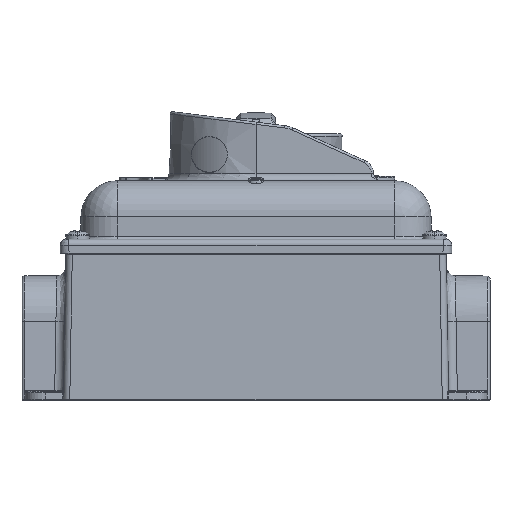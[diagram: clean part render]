
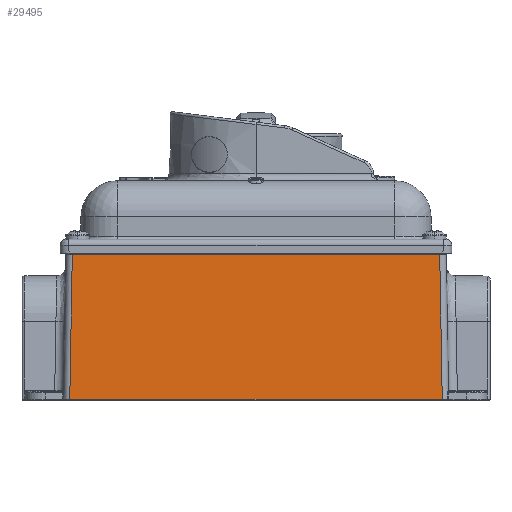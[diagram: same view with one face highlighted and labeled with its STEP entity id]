
A CAD part, left-side view. The second image highlights one B-rep face of the part: STEP entity #29495.
In plain terms, the highlighted planar face has unit normal (-1, 0, 0.018).
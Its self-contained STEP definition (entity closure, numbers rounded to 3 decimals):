
#7275=CARTESIAN_POINT('',(-50.867,-63.668,
-29.695));
#9638=CARTESIAN_POINT('',(-50.005,62.805,19.705));
#9640=DIRECTION('',(0.,1.,0.));
#9641=VECTOR('',#9640,127.336);
#9642=CARTESIAN_POINT('',(-50.867,-63.668,
-29.695));
#9643=LINE('',#9642,#9641);
#9644=DIRECTION('',(-0.017,0.017,-1.));
#9645=VECTOR('',#9644,49.415);
#9646=CARTESIAN_POINT('',(-50.005,62.805,19.705));
#9647=LINE('',#9646,#9645);
#9648=DIRECTION('',(0.,-1.,0.));
#9649=VECTOR('',#9648,125.611);
#9650=CARTESIAN_POINT('',(-50.005,62.805,19.705));
#9651=LINE('',#9650,#9649);
#9652=DIRECTION('',(-0.017,-0.017,-1.));
#9653=VECTOR('',#9652,49.415);
#9654=CARTESIAN_POINT('',(-50.005,-62.805,
19.705));
#9655=LINE('',#9654,#9653);
#15175=VERTEX_POINT('',#9638);
#15176=CARTESIAN_POINT('',(-50.005,-62.805,
19.705));
#15177=VERTEX_POINT('',#15176);
#15300=VERTEX_POINT('',#7275);
#15303=CARTESIAN_POINT('',(-50.867,63.668,
-29.695));
#15304=VERTEX_POINT('',#15303);
#29483=CARTESIAN_POINT('',(-50.,68.342,20.));
#29484=DIRECTION('',(-1.,0.,0.017));
#29485=DIRECTION('',(0.,-1.,0.));
#29486=AXIS2_PLACEMENT_3D('',#29483,#29484,#29485);
#29487=PLANE('',#29486);
#29489=ORIENTED_EDGE('',*,*,#29488,.T.);
#29490=ORIENTED_EDGE('',*,*,#29478,.F.);
#29491=ORIENTED_EDGE('',*,*,#25095,.T.);
#29492=ORIENTED_EDGE('',*,*,#25161,.T.);
#29493=EDGE_LOOP('',(#29489,#29490,#29491,#29492));
#29494=FACE_OUTER_BOUND('',#29493,.F.);
#25095=EDGE_CURVE('',#15175,#15177,#9651,.T.);
#25161=EDGE_CURVE('',#15177,#15300,#9655,.T.);
#29478=EDGE_CURVE('',#15175,#15304,#9647,.T.);
#29488=EDGE_CURVE('',#15300,#15304,#9643,.T.);
#29495=ADVANCED_FACE('',(#29494),#29487,.T.);
